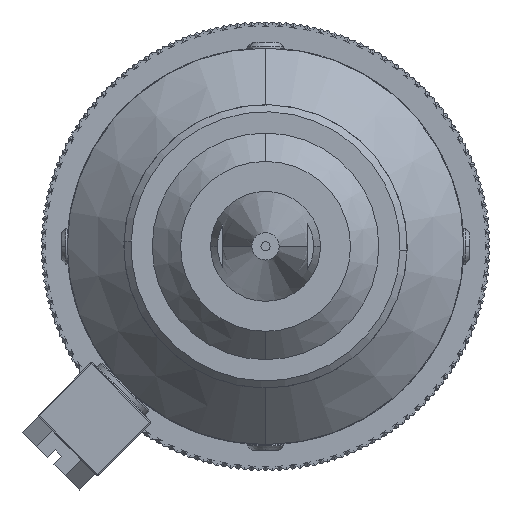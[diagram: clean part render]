
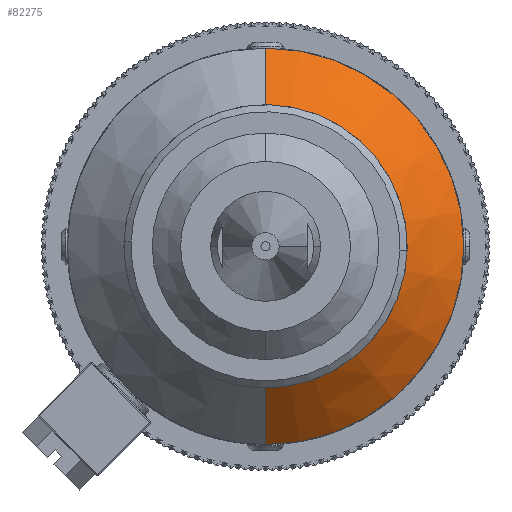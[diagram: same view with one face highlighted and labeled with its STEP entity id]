
A CAD part, front view. The second image highlights one B-rep face of the part: STEP entity #82275.
In plain terms, the highlighted conical face has half-angle 45 degrees and reference radius 15.875 mm.
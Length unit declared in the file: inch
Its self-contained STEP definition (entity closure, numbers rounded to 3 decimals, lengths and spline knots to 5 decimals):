
#5251 = AXIS2_PLACEMENT_3D ( 'NONE', #181194, #58372, #201740 ) ;
#16510 = CARTESIAN_POINT ( 'NONE',  ( 0., 0., -0.625 ) ) ;
#17509 = CONICAL_SURFACE ( 'NONE', #260424, 0.625, 0.785 ) ;
#20242 = AXIS2_PLACEMENT_3D ( 'NONE', #266067, #143330, #20311 ) ;
#20311 = DIRECTION ( 'NONE',  ( 0., 0., -1. ) ) ;
#24409 = ORIENTED_EDGE ( 'NONE', *, *, #112671, .F. ) ;
#28867 = CARTESIAN_POINT ( 'NONE',  ( 0., 0.25, 0.875 ) ) ;
#58151 = DIRECTION ( 'NONE',  ( 0., 0.707, 0.707 ) ) ;
#58372 = DIRECTION ( 'NONE',  ( 0., -1., 0. ) ) ;
#67638 = EDGE_CURVE ( 'NONE', #101071, #197926, #134895, .T. ) ;
#82275 = ADVANCED_FACE ( 'NONE', ( #97975 ), #17509, .T. ) ;
#87436 = DIRECTION ( 'NONE',  ( 0., 0.707, -0.707 ) ) ;
#95959 = VECTOR ( 'NONE', #58151, 39.37008 ) ;
#97975 = FACE_OUTER_BOUND ( 'NONE', #152154, .T. ) ;
#101071 = VERTEX_POINT ( 'NONE', #264337 ) ;
#112671 = EDGE_CURVE ( 'NONE', #113757, #261937, #213769, .T. ) ;
#113757 = VERTEX_POINT ( 'NONE', #16510 ) ;
#115398 = DIRECTION ( 'NONE',  ( 0., 0., 1. ) ) ;
#127966 = LINE ( 'NONE', #168303, #230513 ) ;
#134895 = CIRCLE ( 'NONE', #20242, 0.875 ) ;
#139589 = ORIENTED_EDGE ( 'NONE', *, *, #67638, .T. ) ;
#143330 = DIRECTION ( 'NONE',  ( 0., -1., 0. ) ) ;
#152154 = EDGE_LOOP ( 'NONE', ( #24409, #255003, #139589, #187929 ) ) ;
#155723 = DIRECTION ( 'NONE',  ( 0., 1., 0. ) ) ;
#156968 = LINE ( 'NONE', #160492, #95959 ) ;
#157245 = EDGE_CURVE ( 'NONE', #261937, #197926, #156968, .T. ) ;
#160492 = CARTESIAN_POINT ( 'NONE',  ( 0., 0., 0.625 ) ) ;
#168303 = CARTESIAN_POINT ( 'NONE',  ( 0., 0., -0.625 ) ) ;
#181194 = CARTESIAN_POINT ( 'NONE',  ( 0., 0., 0. ) ) ;
#187929 = ORIENTED_EDGE ( 'NONE', *, *, #157245, .F. ) ;
#189288 = EDGE_CURVE ( 'NONE', #113757, #101071, #127966, .T. ) ;
#197926 = VERTEX_POINT ( 'NONE', #28867 ) ;
#201740 = DIRECTION ( 'NONE',  ( 0., 0., -1. ) ) ;
#213769 = CIRCLE ( 'NONE', #5251, 0.625 ) ;
#230513 = VECTOR ( 'NONE', #87436, 39.37008 ) ;
#251186 = CARTESIAN_POINT ( 'NONE',  ( 0., 0., 0.625 ) ) ;
#255003 = ORIENTED_EDGE ( 'NONE', *, *, #189288, .T. ) ;
#256904 = CARTESIAN_POINT ( 'NONE',  ( 0., 0., 0. ) ) ;
#260424 = AXIS2_PLACEMENT_3D ( 'NONE', #256904, #155723, #115398 ) ;
#261937 = VERTEX_POINT ( 'NONE', #251186 ) ;
#264337 = CARTESIAN_POINT ( 'NONE',  ( 0., 0.25, -0.875 ) ) ;
#266067 = CARTESIAN_POINT ( 'NONE',  ( 0., 0.25, 0. ) ) ;
